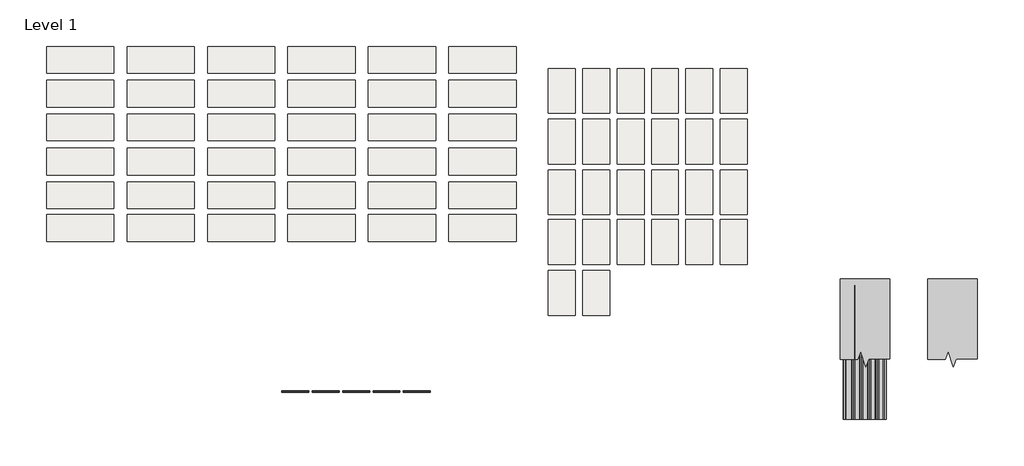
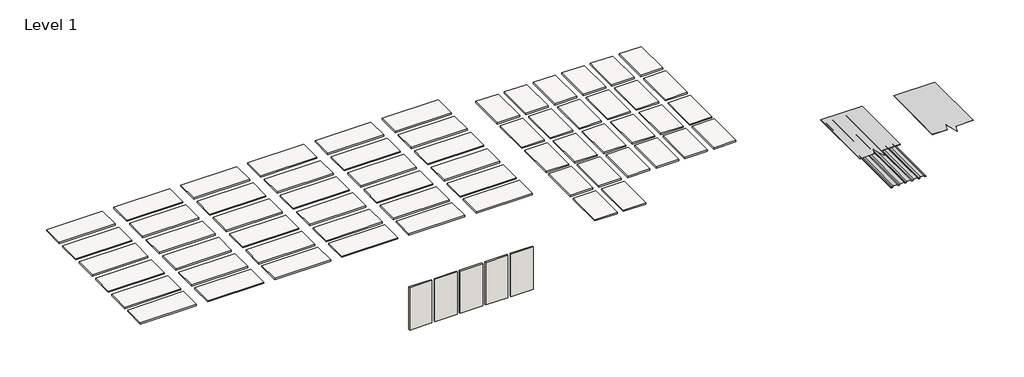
# One storey: 62 slabs, 5 walls, 3 proxies.
"""IFC4 building model written with IfcOpenShell, lengths in millimetres."""

from ifc_helpers import new_model, si_unit, frame, origin, origin_with_axes, place, context, project, spatial, polyline, outline, extrude, transform, mapped, element, save
from components import proxy_b7d9e8bd, section_mask1_section_mask_d04c1bcf

model = new_model("IFC4")

# Units and contexts
model_context = context("Model", 3, world=origin())
ifc_project = project(units=[si_unit("LENGTHUNIT", "METRE", prefix="MILLI")], contexts=[model_context])

# Site, building, storey
site = spatial("IfcSite", under=ifc_project)
building = spatial("IfcBuilding", under=site)
storey = spatial("IfcBuildingStorey", under=building, Name="Level 1", Elevation=0.0)

# Proxies
placement = place(None, origin())
proxy_shape = proxy_b7d9e8bd(model_context)
element("IfcBuildingElementProxy", 1, Name="Metal_Siding_Box-Panel_Steelscape : 36\" Box Panel", ObjectType="Metal_Siding_Box-Panel_Steelscape : 36\" Box Panel", at=placement, inside=storey, context=model_context, shape_type="MappedRepresentation", body=[
    mapped(proxy_shape, transform((8066.2424454, 2573.2522943, 0.0), x_axis=(1.0, 0.0, 0.0), y_axis=(0.0, 1.0, 0.0), z_axis=(0.0, 0.0, 1.0))),
])
section_mask1_section_mask_shape = section_mask1_section_mask_d04c1bcf(model_context)
element("IfcBuildingElementProxy", 2, Name="Section Mask1 : Section Mask", ObjectType="Section Mask1 : Section Mask", at=placement, inside=storey, context=model_context, shape_type="MappedRepresentation", body=[
    mapped(section_mask1_section_mask_shape, transform((1955.8, 0.0, 0.0), x_axis=(1.0, 0.0, 0.0), y_axis=(0.0, 1.0, 0.0), z_axis=(0.0, 0.0, 1.0))),
])
element("IfcBuildingElementProxy", 3, Name="Section Mask2 : Section Mask", ObjectType="Section Mask2 : Section Mask", at=placement, inside=storey, context=model_context, shape_type="MappedRepresentation", body=[
    mapped(section_mask1_section_mask_shape, transform((-31.75, 0.0, 0.0), x_axis=(1.0, 0.0, 0.0), y_axis=(0.0, 1.0, 0.0), z_axis=(0.0, 0.0, 1.0))),
])

# Slabs
element("IfcSlab", 4, ObjectType="Metal Siding - PAINTED - Steelscape", at=placement, inside=storey, context=model_context, shape_type="SweptSolid", body=[
    extrude(outline(polyline([(-9006.1610252, 7398.0362798), (-10530.1610252, 7398.0362798), (-10530.1610252, 8007.6362798), (-9006.1610252, 8007.6362798), (-9006.1610252, 7398.0362798)])), frame((0.0, 0.0, -38.1), z_axis=(0.0, 0.0, 1.0), x_axis=(1.0, 0.0, 0.0)), (0.0, 0.0, 1.0), 38.1),
])
element("IfcSlab", 5, ObjectType="Metal Siding - PAINTED - Steelscape", at=placement, inside=storey, context=model_context, shape_type="SweptSolid", body=[
    extrude(outline(polyline([(-9006.1610252, 6629.6862798), (-10530.1610252, 6629.6862798), (-10530.1610252, 7239.2862798), (-9006.1610252, 7239.2862798), (-9006.1610252, 6629.6862798)])), frame((0.0, 0.0, -38.1), z_axis=(0.0, 0.0, 1.0), x_axis=(1.0, 0.0, 0.0)), (0.0, 0.0, 1.0), 38.1),
])
element("IfcSlab", 6, ObjectType="Metal Siding - PAINTED - Steelscape", at=placement, inside=storey, context=model_context, shape_type="SweptSolid", body=[
    extrude(outline(polyline([(-9006.1610252, 5861.3362798), (-10530.1610252, 5861.3362798), (-10530.1610252, 6470.9362798), (-9006.1610252, 6470.9362798), (-9006.1610252, 5861.3362798)])), frame((0.0, 0.0, -38.1), z_axis=(0.0, 0.0, 1.0), x_axis=(1.0, 0.0, 0.0)), (0.0, 0.0, 1.0), 38.1),
])
element("IfcSlab", 7, ObjectType="Metal Siding - PAINTED - Steelscape", at=placement, inside=storey, context=model_context, shape_type="SweptSolid", body=[
    extrude(outline(polyline([(-9006.1610252, 5086.6362798), (-10530.1610252, 5086.6362798), (-10530.1610252, 5696.2362798), (-9006.1610252, 5696.2362798), (-9006.1610252, 5086.6362798)])), frame((0.0, 0.0, -38.1), z_axis=(0.0, 0.0, 1.0), x_axis=(1.0, 0.0, 0.0)), (0.0, 0.0, 1.0), 38.1),
])
element("IfcSlab", 8, ObjectType="Metal Siding - PAINTED - Steelscape", at=placement, inside=storey, context=model_context, shape_type="SweptSolid", body=[
    extrude(outline(polyline([(-9006.1610252, 4318.2862798), (-10530.1610252, 4318.2862798), (-10530.1610252, 4927.8862798), (-9006.1610252, 4927.8862798), (-9006.1610252, 4318.2862798)])), frame((0.0, 0.0, -38.1), z_axis=(0.0, 0.0, 1.0), x_axis=(1.0, 0.0, 0.0)), (0.0, 0.0, 1.0), 38.1),
])
element("IfcSlab", 9, ObjectType="Metal Siding - PAINTED - Steelscape", at=placement, inside=storey, context=model_context, shape_type="SweptSolid", body=[
    extrude(outline(polyline([(-9006.1610252, 3575.3362798), (-10530.1610252, 3575.3362798), (-10530.1610252, 4184.9362798), (-9006.1610252, 4184.9362798), (-9006.1610252, 3575.3362798)])), frame((0.0, 0.0, -38.1), z_axis=(0.0, 0.0, 1.0), x_axis=(1.0, 0.0, 0.0)), (0.0, 0.0, 1.0), 38.1),
])
element("IfcSlab", 10, ObjectType="Metal Siding - PAINTED - Steelscape", at=placement, inside=storey, context=model_context, shape_type="SweptSolid", body=[
    extrude(outline(polyline([(-7177.3610252, 7398.0362798), (-8701.3610252, 7398.0362798), (-8701.3610252, 8007.6362798), (-7177.3610252, 8007.6362798), (-7177.3610252, 7398.0362798)])), frame((0.0, 0.0, -38.1), z_axis=(0.0, 0.0, 1.0), x_axis=(1.0, 0.0, 0.0)), (0.0, 0.0, 1.0), 38.1),
])
element("IfcSlab", 11, ObjectType="Metal Siding - PAINTED - Steelscape", at=placement, inside=storey, context=model_context, shape_type="SweptSolid", body=[
    extrude(outline(polyline([(-7177.3610252, 6629.6862798), (-8701.3610252, 6629.6862798), (-8701.3610252, 7239.2862798), (-7177.3610252, 7239.2862798), (-7177.3610252, 6629.6862798)])), frame((0.0, 0.0, -38.1), z_axis=(0.0, 0.0, 1.0), x_axis=(1.0, 0.0, 0.0)), (0.0, 0.0, 1.0), 38.1),
])
element("IfcSlab", 12, ObjectType="Metal Siding - PAINTED - Steelscape", at=placement, inside=storey, context=model_context, shape_type="SweptSolid", body=[
    extrude(outline(polyline([(-7177.3610252, 5861.3362798), (-8701.3610252, 5861.3362798), (-8701.3610252, 6470.9362798), (-7177.3610252, 6470.9362798), (-7177.3610252, 5861.3362798)])), frame((0.0, 0.0, -38.1), z_axis=(0.0, 0.0, 1.0), x_axis=(1.0, 0.0, 0.0)), (0.0, 0.0, 1.0), 38.1),
])
element("IfcSlab", 13, ObjectType="Metal Siding - PAINTED - Steelscape", at=placement, inside=storey, context=model_context, shape_type="SweptSolid", body=[
    extrude(outline(polyline([(-7177.3610252, 5086.6362798), (-8701.3610252, 5086.6362798), (-8701.3610252, 5696.2362798), (-7177.3610252, 5696.2362798), (-7177.3610252, 5086.6362798)])), frame((0.0, 0.0, -38.1), z_axis=(0.0, 0.0, 1.0), x_axis=(1.0, 0.0, 0.0)), (0.0, 0.0, 1.0), 38.1),
])
element("IfcSlab", 14, ObjectType="Metal Siding - PAINTED - Steelscape", at=placement, inside=storey, context=model_context, shape_type="SweptSolid", body=[
    extrude(outline(polyline([(-7177.3610252, 4318.2862798), (-8701.3610252, 4318.2862798), (-8701.3610252, 4927.8862798), (-7177.3610252, 4927.8862798), (-7177.3610252, 4318.2862798)])), frame((0.0, 0.0, -38.1), z_axis=(0.0, 0.0, 1.0), x_axis=(1.0, 0.0, 0.0)), (0.0, 0.0, 1.0), 38.1),
])
element("IfcSlab", 15, ObjectType="Metal Siding - PAINTED - Steelscape", at=placement, inside=storey, context=model_context, shape_type="SweptSolid", body=[
    extrude(outline(polyline([(-7177.3610252, 3575.3362798), (-8701.3610252, 3575.3362798), (-8701.3610252, 4184.9362798), (-7177.3610252, 4184.9362798), (-7177.3610252, 3575.3362798)])), frame((0.0, 0.0, -38.1), z_axis=(0.0, 0.0, 1.0), x_axis=(1.0, 0.0, 0.0)), (0.0, 0.0, 1.0), 38.1),
])
element("IfcSlab", 16, ObjectType="Metal Siding - PAINTED - Steelscape", at=placement, inside=storey, context=model_context, shape_type="SweptSolid", body=[
    extrude(outline(polyline([(-5348.5610252, 7398.0362798), (-6872.5610252, 7398.0362798), (-6872.5610252, 8007.6362798), (-5348.5610252, 8007.6362798), (-5348.5610252, 7398.0362798)])), frame((0.0, 0.0, -38.1), z_axis=(0.0, 0.0, 1.0), x_axis=(1.0, 0.0, 0.0)), (0.0, 0.0, 1.0), 38.1),
])
element("IfcSlab", 17, ObjectType="Metal Siding - PAINTED - Steelscape", at=placement, inside=storey, context=model_context, shape_type="SweptSolid", body=[
    extrude(outline(polyline([(-5348.5610252, 6629.6862798), (-6872.5610252, 6629.6862798), (-6872.5610252, 7239.2862798), (-5348.5610252, 7239.2862798), (-5348.5610252, 6629.6862798)])), frame((0.0, 0.0, -38.1), z_axis=(0.0, 0.0, 1.0), x_axis=(1.0, 0.0, 0.0)), (0.0, 0.0, 1.0), 38.1),
])
element("IfcSlab", 18, ObjectType="Metal Siding - PAINTED - Steelscape", at=placement, inside=storey, context=model_context, shape_type="SweptSolid", body=[
    extrude(outline(polyline([(-5348.5610252, 5861.3362798), (-6872.5610252, 5861.3362798), (-6872.5610252, 6470.9362798), (-5348.5610252, 6470.9362798), (-5348.5610252, 5861.3362798)])), frame((0.0, 0.0, -38.1), z_axis=(0.0, 0.0, 1.0), x_axis=(1.0, 0.0, 0.0)), (0.0, 0.0, 1.0), 38.1),
])
element("IfcSlab", 19, ObjectType="Metal Siding - PAINTED - Steelscape", at=placement, inside=storey, context=model_context, shape_type="SweptSolid", body=[
    extrude(outline(polyline([(-5348.5610252, 5086.6362798), (-6872.5610252, 5086.6362798), (-6872.5610252, 5696.2362798), (-5348.5610252, 5696.2362798), (-5348.5610252, 5086.6362798)])), frame((0.0, 0.0, -38.1), z_axis=(0.0, 0.0, 1.0), x_axis=(1.0, 0.0, 0.0)), (0.0, 0.0, 1.0), 38.1),
])
element("IfcSlab", 20, ObjectType="Metal Siding - PAINTED - Steelscape", at=placement, inside=storey, context=model_context, shape_type="SweptSolid", body=[
    extrude(outline(polyline([(-5348.5610252, 4318.2862798), (-6872.5610252, 4318.2862798), (-6872.5610252, 4927.8862798), (-5348.5610252, 4927.8862798), (-5348.5610252, 4318.2862798)])), frame((0.0, 0.0, -38.1), z_axis=(0.0, 0.0, 1.0), x_axis=(1.0, 0.0, 0.0)), (0.0, 0.0, 1.0), 38.1),
])
element("IfcSlab", 21, ObjectType="Metal Siding - PAINTED - Steelscape", at=placement, inside=storey, context=model_context, shape_type="SweptSolid", body=[
    extrude(outline(polyline([(-5348.5610252, 3575.3362798), (-6872.5610252, 3575.3362798), (-6872.5610252, 4184.9362798), (-5348.5610252, 4184.9362798), (-5348.5610252, 3575.3362798)])), frame((0.0, 0.0, -38.1), z_axis=(0.0, 0.0, 1.0), x_axis=(1.0, 0.0, 0.0)), (0.0, 0.0, 1.0), 38.1),
])
element("IfcSlab", 22, ObjectType="Metal Siding - PAINTED - Steelscape", at=placement, inside=storey, context=model_context, shape_type="SweptSolid", body=[
    extrude(outline(polyline([(-3519.7610252, 7398.0362798), (-5043.7610252, 7398.0362798), (-5043.7610252, 8007.6362798), (-3519.7610252, 8007.6362798), (-3519.7610252, 7398.0362798)])), frame((0.0, 0.0, -38.1), z_axis=(0.0, 0.0, 1.0), x_axis=(1.0, 0.0, 0.0)), (0.0, 0.0, 1.0), 38.1),
])
element("IfcSlab", 23, ObjectType="Metal Siding - PAINTED - Steelscape", at=placement, inside=storey, context=model_context, shape_type="SweptSolid", body=[
    extrude(outline(polyline([(-3519.7610252, 6629.6862798), (-5043.7610252, 6629.6862798), (-5043.7610252, 7239.2862798), (-3519.7610252, 7239.2862798), (-3519.7610252, 6629.6862798)])), frame((0.0, 0.0, -38.1), z_axis=(0.0, 0.0, 1.0), x_axis=(1.0, 0.0, 0.0)), (0.0, 0.0, 1.0), 38.1),
])
element("IfcSlab", 24, ObjectType="Metal Siding - PAINTED - Steelscape", at=placement, inside=storey, context=model_context, shape_type="SweptSolid", body=[
    extrude(outline(polyline([(-3519.7610252, 5861.3362798), (-5043.7610252, 5861.3362798), (-5043.7610252, 6470.9362798), (-3519.7610252, 6470.9362798), (-3519.7610252, 5861.3362798)])), frame((0.0, 0.0, -38.1), z_axis=(0.0, 0.0, 1.0), x_axis=(1.0, 0.0, 0.0)), (0.0, 0.0, 1.0), 38.1),
])
element("IfcSlab", 25, ObjectType="Metal Siding - PAINTED - Steelscape", at=placement, inside=storey, context=model_context, shape_type="SweptSolid", body=[
    extrude(outline(polyline([(-3519.7610252, 5086.6362798), (-5043.7610252, 5086.6362798), (-5043.7610252, 5696.2362798), (-3519.7610252, 5696.2362798), (-3519.7610252, 5086.6362798)])), frame((0.0, 0.0, -38.1), z_axis=(0.0, 0.0, 1.0), x_axis=(1.0, 0.0, 0.0)), (0.0, 0.0, 1.0), 38.1),
])
element("IfcSlab", 26, ObjectType="Metal Siding - PAINTED - Steelscape", at=placement, inside=storey, context=model_context, shape_type="SweptSolid", body=[
    extrude(outline(polyline([(-3519.7610252, 4318.2862798), (-5043.7610252, 4318.2862798), (-5043.7610252, 4927.8862798), (-3519.7610252, 4927.8862798), (-3519.7610252, 4318.2862798)])), frame((0.0, 0.0, -38.1), z_axis=(0.0, 0.0, 1.0), x_axis=(1.0, 0.0, 0.0)), (0.0, 0.0, 1.0), 38.1),
])
element("IfcSlab", 27, ObjectType="Metal Siding - PAINTED - Steelscape", at=placement, inside=storey, context=model_context, shape_type="SweptSolid", body=[
    extrude(outline(polyline([(-3519.7610252, 3575.3362798), (-5043.7610252, 3575.3362798), (-5043.7610252, 4184.9362798), (-3519.7610252, 4184.9362798), (-3519.7610252, 3575.3362798)])), frame((0.0, 0.0, -38.1), z_axis=(0.0, 0.0, 1.0), x_axis=(1.0, 0.0, 0.0)), (0.0, 0.0, 1.0), 38.1),
])
element("IfcSlab", 28, ObjectType="Metal Siding - PAINTED - Steelscape", at=placement, inside=storey, context=model_context, shape_type="SweptSolid", body=[
    extrude(outline(polyline([(-1690.9610252, 7398.0362798), (-3214.9610252, 7398.0362798), (-3214.9610252, 8007.6362798), (-1690.9610252, 8007.6362798), (-1690.9610252, 7398.0362798)])), frame((0.0, 0.0, -38.1), z_axis=(0.0, 0.0, 1.0), x_axis=(1.0, 0.0, 0.0)), (0.0, 0.0, 1.0), 38.1),
])
element("IfcSlab", 29, ObjectType="Metal Siding - PAINTED - Steelscape", at=placement, inside=storey, context=model_context, shape_type="SweptSolid", body=[
    extrude(outline(polyline([(-1690.9610252, 6629.6862798), (-3214.9610252, 6629.6862798), (-3214.9610252, 7239.2862798), (-1690.9610252, 7239.2862798), (-1690.9610252, 6629.6862798)])), frame((0.0, 0.0, -38.1), z_axis=(0.0, 0.0, 1.0), x_axis=(1.0, 0.0, 0.0)), (0.0, 0.0, 1.0), 38.1),
])
element("IfcSlab", 30, ObjectType="Metal Siding - PAINTED - Steelscape", at=placement, inside=storey, context=model_context, shape_type="SweptSolid", body=[
    extrude(outline(polyline([(-1690.9610252, 5861.3362798), (-3214.9610252, 5861.3362798), (-3214.9610252, 6470.9362798), (-1690.9610252, 6470.9362798), (-1690.9610252, 5861.3362798)])), frame((0.0, 0.0, -38.1), z_axis=(0.0, 0.0, 1.0), x_axis=(1.0, 0.0, 0.0)), (0.0, 0.0, 1.0), 38.1),
])
element("IfcSlab", 31, ObjectType="Metal Siding - PAINTED - Steelscape", at=placement, inside=storey, context=model_context, shape_type="SweptSolid", body=[
    extrude(outline(polyline([(-1690.9610252, 5086.6362798), (-3214.9610252, 5086.6362798), (-3214.9610252, 5696.2362798), (-1690.9610252, 5696.2362798), (-1690.9610252, 5086.6362798)])), frame((0.0, 0.0, -38.1), z_axis=(0.0, 0.0, 1.0), x_axis=(1.0, 0.0, 0.0)), (0.0, 0.0, 1.0), 38.1),
])
element("IfcSlab", 32, ObjectType="Metal Siding - PAINTED - Steelscape", at=placement, inside=storey, context=model_context, shape_type="SweptSolid", body=[
    extrude(outline(polyline([(-1690.9610252, 4318.2862798), (-3214.9610252, 4318.2862798), (-3214.9610252, 4927.8862798), (-1690.9610252, 4927.8862798), (-1690.9610252, 4318.2862798)])), frame((0.0, 0.0, -38.1), z_axis=(0.0, 0.0, 1.0), x_axis=(1.0, 0.0, 0.0)), (0.0, 0.0, 1.0), 38.1),
])
element("IfcSlab", 33, ObjectType="Metal Siding - PAINTED - Steelscape", at=placement, inside=storey, context=model_context, shape_type="SweptSolid", body=[
    extrude(outline(polyline([(-1690.9610252, 3575.3362798), (-3214.9610252, 3575.3362798), (-3214.9610252, 4184.9362798), (-1690.9610252, 4184.9362798), (-1690.9610252, 3575.3362798)])), frame((0.0, 0.0, -38.1), z_axis=(0.0, 0.0, 1.0), x_axis=(1.0, 0.0, 0.0)), (0.0, 0.0, 1.0), 38.1),
])
element("IfcSlab", 34, ObjectType="Metal Siding - PAINTED - Steelscape", at=placement, inside=storey, context=model_context, shape_type="SweptSolid", body=[
    extrude(outline(polyline([(137.8389748, 7398.0362798), (-1386.1610252, 7398.0362798), (-1386.1610252, 8007.6362798), (137.8389748, 8007.6362798), (137.8389748, 7398.0362798)])), frame((0.0, 0.0, -38.1), z_axis=(0.0, 0.0, 1.0), x_axis=(1.0, 0.0, 0.0)), (0.0, 0.0, 1.0), 38.1),
])
element("IfcSlab", 35, ObjectType="Metal Siding - PAINTED - Steelscape", at=placement, inside=storey, context=model_context, shape_type="SweptSolid", body=[
    extrude(outline(polyline([(137.8389748, 6629.6862798), (-1386.1610252, 6629.6862798), (-1386.1610252, 7239.2862798), (137.8389748, 7239.2862798), (137.8389748, 6629.6862798)])), frame((0.0, 0.0, -38.1), z_axis=(0.0, 0.0, 1.0), x_axis=(1.0, 0.0, 0.0)), (0.0, 0.0, 1.0), 38.1),
])
element("IfcSlab", 36, ObjectType="Metal Siding - PAINTED - Steelscape", at=placement, inside=storey, context=model_context, shape_type="SweptSolid", body=[
    extrude(outline(polyline([(137.8389748, 5861.3362798), (-1386.1610252, 5861.3362798), (-1386.1610252, 6470.9362798), (137.8389748, 6470.9362798), (137.8389748, 5861.3362798)])), frame((0.0, 0.0, -38.1), z_axis=(0.0, 0.0, 1.0), x_axis=(1.0, 0.0, 0.0)), (0.0, 0.0, 1.0), 38.1),
])
element("IfcSlab", 37, ObjectType="Metal Siding - PAINTED - Steelscape", at=placement, inside=storey, context=model_context, shape_type="SweptSolid", body=[
    extrude(outline(polyline([(137.8389748, 5086.6362798), (-1386.1610252, 5086.6362798), (-1386.1610252, 5696.2362798), (137.8389748, 5696.2362798), (137.8389748, 5086.6362798)])), frame((0.0, 0.0, -38.1), z_axis=(0.0, 0.0, 1.0), x_axis=(1.0, 0.0, 0.0)), (0.0, 0.0, 1.0), 38.1),
])
element("IfcSlab", 38, ObjectType="Metal Siding - PAINTED - Steelscape", at=placement, inside=storey, context=model_context, shape_type="SweptSolid", body=[
    extrude(outline(polyline([(137.8389748, 4318.2862798), (-1386.1610252, 4318.2862798), (-1386.1610252, 4927.8862798), (137.8389748, 4927.8862798), (137.8389748, 4318.2862798)])), frame((0.0, 0.0, -38.1), z_axis=(0.0, 0.0, 1.0), x_axis=(1.0, 0.0, 0.0)), (0.0, 0.0, 1.0), 38.1),
])
element("IfcSlab", 39, ObjectType="Metal Siding - PAINTED - Steelscape", at=placement, inside=storey, context=model_context, shape_type="SweptSolid", body=[
    extrude(outline(polyline([(137.8389748, 3575.3362798), (-1386.1610252, 3575.3362798), (-1386.1610252, 4184.9362798), (137.8389748, 4184.9362798), (137.8389748, 3575.3362798)])), frame((0.0, 0.0, -38.1), z_axis=(0.0, 0.0, 1.0), x_axis=(1.0, 0.0, 0.0)), (0.0, 0.0, 1.0), 38.1),
])
element("IfcSlab", 40, ObjectType="AEP Span Material Sample", at=placement, inside=storey, context=model_context, shape_type="SweptSolid", body=[
    extrude(outline(polyline([(1485.5495194, 6492.0895229), (875.9495194, 6492.0895229), (875.9495194, 7508.0895229), (1485.5495194, 7508.0895229), (1485.5495194, 6492.0895229)])), frame((0.0, 0.0, -38.1), z_axis=(0.0, 0.0, 1.0), x_axis=(1.0, 0.0, 0.0)), (0.0, 0.0, 1.0), 38.1),
])
element("IfcSlab", 41, ObjectType="AEP Span Material Sample", at=placement, inside=storey, context=model_context, shape_type="SweptSolid", body=[
    extrude(outline(polyline([(2266.5995194, 6492.0895229), (1656.9995194, 6492.0895229), (1656.9995194, 7508.0895229), (2266.5995194, 7508.0895229), (2266.5995194, 6492.0895229)])), frame((0.0, 0.0, -38.1), z_axis=(0.0, 0.0, 1.0), x_axis=(1.0, 0.0, 0.0)), (0.0, 0.0, 1.0), 38.1),
])
element("IfcSlab", 42, ObjectType="AEP Span Material Sample", at=placement, inside=storey, context=model_context, shape_type="SweptSolid", body=[
    extrude(outline(polyline([(3047.6495194, 6492.0895229), (2438.0495194, 6492.0895229), (2438.0495194, 7508.0895229), (3047.6495194, 7508.0895229), (3047.6495194, 6492.0895229)])), frame((0.0, 0.0, -38.1), z_axis=(0.0, 0.0, 1.0), x_axis=(1.0, 0.0, 0.0)), (0.0, 0.0, 1.0), 38.1),
])
element("IfcSlab", 43, ObjectType="AEP Span Material Sample", at=placement, inside=storey, context=model_context, shape_type="SweptSolid", body=[
    extrude(outline(polyline([(3828.6995194, 6492.0895229), (3219.0995194, 6492.0895229), (3219.0995194, 7508.0895229), (3828.6995194, 7508.0895229), (3828.6995194, 6492.0895229)])), frame((0.0, 0.0, -38.1), z_axis=(0.0, 0.0, 1.0), x_axis=(1.0, 0.0, 0.0)), (0.0, 0.0, 1.0), 38.1),
])
element("IfcSlab", 44, ObjectType="AEP Span Material Sample", at=placement, inside=storey, context=model_context, shape_type="SweptSolid", body=[
    extrude(outline(polyline([(4609.7495194, 6492.0895229), (4000.1495194, 6492.0895229), (4000.1495194, 7508.0895229), (4609.7495194, 7508.0895229), (4609.7495194, 6492.0895229)])), frame((0.0, 0.0, -38.1), z_axis=(0.0, 0.0, 1.0), x_axis=(1.0, 0.0, 0.0)), (0.0, 0.0, 1.0), 38.1),
])
element("IfcSlab", 45, ObjectType="AEP Span Material Sample", at=placement, inside=storey, context=model_context, shape_type="SweptSolid", body=[
    extrude(outline(polyline([(5390.7995194, 6492.0895229), (4781.1995194, 6492.0895229), (4781.1995194, 7508.0895229), (5390.7995194, 7508.0895229), (5390.7995194, 6492.0895229)])), frame((0.0, 0.0, -38.1), z_axis=(0.0, 0.0, 1.0), x_axis=(1.0, 0.0, 0.0)), (0.0, 0.0, 1.0), 38.1),
])
element("IfcSlab", 46, ObjectType="AEP Span Material Sample", at=placement, inside=storey, context=model_context, shape_type="SweptSolid", body=[
    extrude(outline(polyline([(1485.5495194, 5336.3895229), (875.9495194, 5336.3895229), (875.9495194, 6352.3895229), (1485.5495194, 6352.3895229), (1485.5495194, 5336.3895229)])), frame((0.0, 0.0, -38.1), z_axis=(0.0, 0.0, 1.0), x_axis=(1.0, 0.0, 0.0)), (0.0, 0.0, 1.0), 38.1),
])
element("IfcSlab", 47, ObjectType="AEP Span Material Sample", at=placement, inside=storey, context=model_context, shape_type="SweptSolid", body=[
    extrude(outline(polyline([(2266.5995194, 5336.3895229), (1656.9995194, 5336.3895229), (1656.9995194, 6352.3895229), (2266.5995194, 6352.3895229), (2266.5995194, 5336.3895229)])), frame((0.0, 0.0, -38.1), z_axis=(0.0, 0.0, 1.0), x_axis=(1.0, 0.0, 0.0)), (0.0, 0.0, 1.0), 38.1),
])
element("IfcSlab", 48, ObjectType="AEP Span Material Sample", at=placement, inside=storey, context=model_context, shape_type="SweptSolid", body=[
    extrude(outline(polyline([(3047.6495194, 5336.3895229), (2438.0495194, 5336.3895229), (2438.0495194, 6352.3895229), (3047.6495194, 6352.3895229), (3047.6495194, 5336.3895229)])), frame((0.0, 0.0, -38.1), z_axis=(0.0, 0.0, 1.0), x_axis=(1.0, 0.0, 0.0)), (0.0, 0.0, 1.0), 38.1),
])
element("IfcSlab", 49, ObjectType="AEP Span Material Sample", at=placement, inside=storey, context=model_context, shape_type="SweptSolid", body=[
    extrude(outline(polyline([(3828.6995194, 5336.3895229), (3219.0995194, 5336.3895229), (3219.0995194, 6352.3895229), (3828.6995194, 6352.3895229), (3828.6995194, 5336.3895229)])), frame((0.0, 0.0, -38.1), z_axis=(0.0, 0.0, 1.0), x_axis=(1.0, 0.0, 0.0)), (0.0, 0.0, 1.0), 38.1),
])
element("IfcSlab", 50, ObjectType="AEP Span Material Sample", at=placement, inside=storey, context=model_context, shape_type="SweptSolid", body=[
    extrude(outline(polyline([(4609.7495194, 5336.3895229), (4000.1495194, 5336.3895229), (4000.1495194, 6352.3895229), (4609.7495194, 6352.3895229), (4609.7495194, 5336.3895229)])), frame((0.0, 0.0, -38.1), z_axis=(0.0, 0.0, 1.0), x_axis=(1.0, 0.0, 0.0)), (0.0, 0.0, 1.0), 38.1),
])
element("IfcSlab", 51, ObjectType="AEP Span Material Sample", at=placement, inside=storey, context=model_context, shape_type="SweptSolid", body=[
    extrude(outline(polyline([(5390.7995194, 5336.3895229), (4781.1995194, 5336.3895229), (4781.1995194, 6352.3895229), (5390.7995194, 6352.3895229), (5390.7995194, 5336.3895229)])), frame((0.0, 0.0, -38.1), z_axis=(0.0, 0.0, 1.0), x_axis=(1.0, 0.0, 0.0)), (0.0, 0.0, 1.0), 38.1),
])
element("IfcSlab", 52, ObjectType="AEP Span Material Sample", at=placement, inside=storey, context=model_context, shape_type="SweptSolid", body=[
    extrude(outline(polyline([(1485.5495194, 4180.6895229), (875.9495194, 4180.6895229), (875.9495194, 5196.6895229), (1485.5495194, 5196.6895229), (1485.5495194, 4180.6895229)])), frame((0.0, 0.0, -38.1), z_axis=(0.0, 0.0, 1.0), x_axis=(1.0, 0.0, 0.0)), (0.0, 0.0, 1.0), 38.1),
])
element("IfcSlab", 53, ObjectType="AEP Span Material Sample", at=placement, inside=storey, context=model_context, shape_type="SweptSolid", body=[
    extrude(outline(polyline([(2266.5995194, 4180.6895229), (1656.9995194, 4180.6895229), (1656.9995194, 5196.6895229), (2266.5995194, 5196.6895229), (2266.5995194, 4180.6895229)])), frame((0.0, 0.0, -38.1), z_axis=(0.0, 0.0, 1.0), x_axis=(1.0, 0.0, 0.0)), (0.0, 0.0, 1.0), 38.1),
])
element("IfcSlab", 54, ObjectType="AEP Span Material Sample", at=placement, inside=storey, context=model_context, shape_type="SweptSolid", body=[
    extrude(outline(polyline([(3047.6495194, 4180.6895229), (2438.0495194, 4180.6895229), (2438.0495194, 5196.6895229), (3047.6495194, 5196.6895229), (3047.6495194, 4180.6895229)])), frame((0.0, 0.0, -38.1), z_axis=(0.0, 0.0, 1.0), x_axis=(1.0, 0.0, 0.0)), (0.0, 0.0, 1.0), 38.1),
])
element("IfcSlab", 55, ObjectType="AEP Span Material Sample", at=placement, inside=storey, context=model_context, shape_type="SweptSolid", body=[
    extrude(outline(polyline([(3828.6995194, 4180.6895229), (3219.0995194, 4180.6895229), (3219.0995194, 5196.6895229), (3828.6995194, 5196.6895229), (3828.6995194, 4180.6895229)])), frame((0.0, 0.0, -38.1), z_axis=(0.0, 0.0, 1.0), x_axis=(1.0, 0.0, 0.0)), (0.0, 0.0, 1.0), 38.1),
])
element("IfcSlab", 56, ObjectType="AEP Span Material Sample", at=placement, inside=storey, context=model_context, shape_type="SweptSolid", body=[
    extrude(outline(polyline([(4609.7495194, 4180.6895229), (4000.1495194, 4180.6895229), (4000.1495194, 5196.6895229), (4609.7495194, 5196.6895229), (4609.7495194, 4180.6895229)])), frame((0.0, 0.0, -38.1), z_axis=(0.0, 0.0, 1.0), x_axis=(1.0, 0.0, 0.0)), (0.0, 0.0, 1.0), 38.1),
])
element("IfcSlab", 57, ObjectType="AEP Span Material Sample", at=placement, inside=storey, context=model_context, shape_type="SweptSolid", body=[
    extrude(outline(polyline([(5390.7995194, 4180.6895229), (4781.1995194, 4180.6895229), (4781.1995194, 5196.6895229), (5390.7995194, 5196.6895229), (5390.7995194, 4180.6895229)])), frame((0.0, 0.0, -38.1), z_axis=(0.0, 0.0, 1.0), x_axis=(1.0, 0.0, 0.0)), (0.0, 0.0, 1.0), 38.1),
])
element("IfcSlab", 58, ObjectType="AEP Span Material Sample", at=placement, inside=storey, context=model_context, shape_type="SweptSolid", body=[
    extrude(outline(polyline([(1485.5495194, 3050.3895229), (875.9495194, 3050.3895229), (875.9495194, 4066.3895229), (1485.5495194, 4066.3895229), (1485.5495194, 3050.3895229)])), frame((0.0, 0.0, -38.1), z_axis=(0.0, 0.0, 1.0), x_axis=(1.0, 0.0, 0.0)), (0.0, 0.0, 1.0), 38.1),
])
element("IfcSlab", 59, ObjectType="AEP Span Material Sample", at=placement, inside=storey, context=model_context, shape_type="SweptSolid", body=[
    extrude(outline(polyline([(2266.5995194, 3050.3895229), (1656.9995194, 3050.3895229), (1656.9995194, 4066.3895229), (2266.5995194, 4066.3895229), (2266.5995194, 3050.3895229)])), frame((0.0, 0.0, -38.1), z_axis=(0.0, 0.0, 1.0), x_axis=(1.0, 0.0, 0.0)), (0.0, 0.0, 1.0), 38.1),
])
element("IfcSlab", 60, ObjectType="AEP Span Material Sample", at=placement, inside=storey, context=model_context, shape_type="SweptSolid", body=[
    extrude(outline(polyline([(3047.6495194, 3050.3895229), (2438.0495194, 3050.3895229), (2438.0495194, 4066.3895229), (3047.6495194, 4066.3895229), (3047.6495194, 3050.3895229)])), frame((0.0, 0.0, -38.1), z_axis=(0.0, 0.0, 1.0), x_axis=(1.0, 0.0, 0.0)), (0.0, 0.0, 1.0), 38.1),
])
element("IfcSlab", 61, ObjectType="AEP Span Material Sample", at=placement, inside=storey, context=model_context, shape_type="SweptSolid", body=[
    extrude(outline(polyline([(3828.6995194, 3050.3895229), (3219.0995194, 3050.3895229), (3219.0995194, 4066.3895229), (3828.6995194, 4066.3895229), (3828.6995194, 3050.3895229)])), frame((0.0, 0.0, -38.1), z_axis=(0.0, 0.0, 1.0), x_axis=(1.0, 0.0, 0.0)), (0.0, 0.0, 1.0), 38.1),
])
element("IfcSlab", 62, ObjectType="AEP Span Material Sample", at=placement, inside=storey, context=model_context, shape_type="SweptSolid", body=[
    extrude(outline(polyline([(4609.7495194, 3050.3895229), (4000.1495194, 3050.3895229), (4000.1495194, 4066.3895229), (4609.7495194, 4066.3895229), (4609.7495194, 3050.3895229)])), frame((0.0, 0.0, -38.1), z_axis=(0.0, 0.0, 1.0), x_axis=(1.0, 0.0, 0.0)), (0.0, 0.0, 1.0), 38.1),
])
element("IfcSlab", 63, ObjectType="AEP Span Material Sample", at=placement, inside=storey, context=model_context, shape_type="SweptSolid", body=[
    extrude(outline(polyline([(5390.7995194, 3050.3895229), (4781.1995194, 3050.3895229), (4781.1995194, 4066.3895229), (5390.7995194, 4066.3895229), (5390.7995194, 3050.3895229)])), frame((0.0, 0.0, -38.1), z_axis=(0.0, 0.0, 1.0), x_axis=(1.0, 0.0, 0.0)), (0.0, 0.0, 1.0), 38.1),
])
element("IfcSlab", 64, ObjectType="AEP Span Material Sample", at=placement, inside=storey, context=model_context, shape_type="SweptSolid", body=[
    extrude(outline(polyline([(1485.5495194, 1894.6895229), (875.9495194, 1894.6895229), (875.9495194, 2910.6895229), (1485.5495194, 2910.6895229), (1485.5495194, 1894.6895229)])), frame((0.0, 0.0, -38.1), z_axis=(0.0, 0.0, 1.0), x_axis=(1.0, 0.0, 0.0)), (0.0, 0.0, 1.0), 38.1),
])
element("IfcSlab", 65, ObjectType="AEP Span Material Sample", at=placement, inside=storey, context=model_context, shape_type="SweptSolid", body=[
    extrude(outline(polyline([(2266.5995194, 1894.6895229), (1656.9995194, 1894.6895229), (1656.9995194, 2910.6895229), (2266.5995194, 2910.6895229), (2266.5995194, 1894.6895229)])), frame((0.0, 0.0, -38.1), z_axis=(0.0, 0.0, 1.0), x_axis=(1.0, 0.0, 0.0)), (0.0, 0.0, 1.0), 38.1),
])

# Walls
element("IfcWall", 66, ObjectType="36\" Box Panel", at=placement, inside=storey, context=model_context, shape_type="SweptSolid", body=[
    extrude(outline(polyline([(-3880.4888046, 141.2022943), (-4490.0888046, 141.2022943), (-4490.0888046, 179.3022943), (-3880.4888046, 179.3022943), (-3880.4888046, 141.2022943)])), origin_with_axes(), (0.0, 0.0, 1.0), 1219.2),
])
element("IfcWall", 67, ObjectType="36\" Box Panel", at=placement, inside=storey, context=model_context, shape_type="SweptSolid", body=[
    extrude(outline(polyline([(-3190.3231796, 141.2022943), (-3799.9231796, 141.2022943), (-3799.9231796, 179.3022943), (-3190.3231796, 179.3022943), (-3190.3231796, 141.2022943)])), origin_with_axes(), (0.0, 0.0, 1.0), 1219.2),
])
element("IfcWall", 68, ObjectType="36\" Box Panel", at=placement, inside=storey, context=model_context, shape_type="SweptSolid", body=[
    extrude(outline(polyline([(-2500.1575546, 141.2022943), (-3109.7575546, 141.2022943), (-3109.7575546, 179.3022943), (-2500.1575546, 179.3022943), (-2500.1575546, 141.2022943)])), origin_with_axes(), (0.0, 0.0, 1.0), 1219.2),
])
element("IfcWall", 69, ObjectType="36\" Box Panel", at=placement, inside=storey, context=model_context, shape_type="SweptSolid", body=[
    extrude(outline(polyline([(-1809.9919296, 141.2022943), (-2419.5919296, 141.2022943), (-2419.5919296, 179.3022943), (-1809.9919296, 179.3022943), (-1809.9919296, 141.2022943)])), origin_with_axes(), (0.0, 0.0, 1.0), 1219.2),
])
element("IfcWall", 70, ObjectType="36\" Box Panel", at=placement, inside=storey, context=model_context, shape_type="SweptSolid", body=[
    extrude(outline(polyline([(-4570.6544296, 141.2022943), (-5180.2544296, 141.2022943), (-5180.2544296, 179.3022943), (-4570.6544296, 179.3022943), (-4570.6544296, 141.2022943)])), origin_with_axes(), (0.0, 0.0, 1.0), 1219.2),
])

save(model, "model.ifc")
